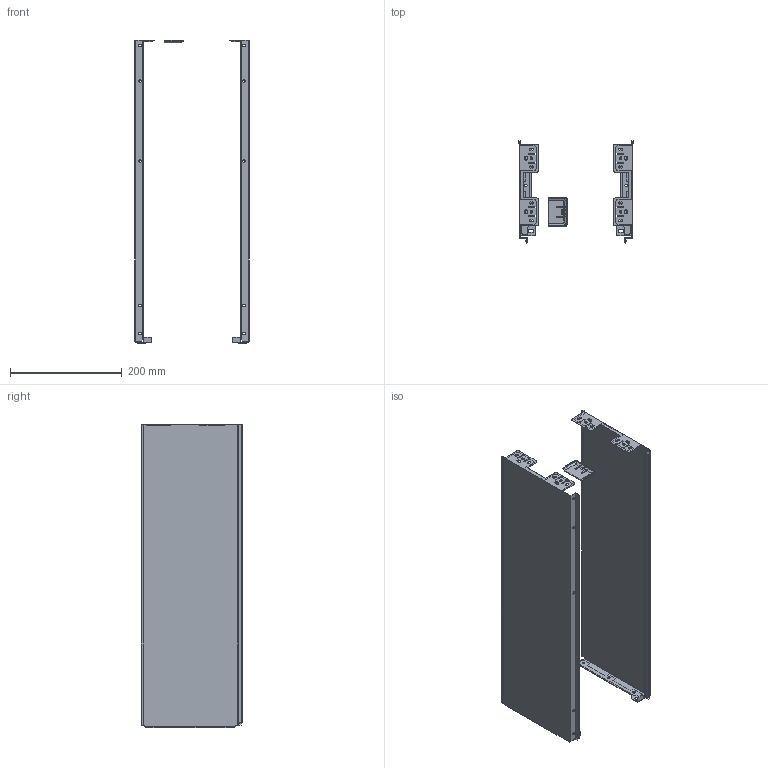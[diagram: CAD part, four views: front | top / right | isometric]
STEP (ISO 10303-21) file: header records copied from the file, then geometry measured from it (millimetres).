
FILE_DESCRIPTION (( 'STEP AP203' ), '1' );
FILE_NAME ('541753.STEP', '2026-04-29T12:47:30', ( '' ), ( '' ), 'SwSTEP 2.0', 'SolidWorks 2025', '' );
FILE_SCHEMA (( 'CONFIG_CONTROL_DESIGN' ));
Length unit declared in the file: millimetre
Products named in the file (4): 541753; StrongMini bočnice_L_gen_541753_L; StrongMini krytka šroubů; StrongMini bočnice_P_gen_541753_P
Assembly tree (3 placements, depth 2):
  541753
    StrongMini bočnice_L_gen_541753_L
    StrongMini bočnice_P_gen_541753_P
    StrongMini krytka šroubů
Bounding box: 205.4 x 182.07 x 542.3 mm (x, y, z)
Volume: 196295.1 mm3; surface area: 466852.4 mm2
Topology: 3 solids, 3 shells, 426 faces, 1221 edges, 798 vertices
Faces by surface type: plane 308, cylinder 84, cone 34
Full cylindrical faces by diameter (mm): 4.5 x20
Entity records: 14099 total; most frequent: CARTESIAN_POINT 2481, ORIENTED_EDGE 2358, DIRECTION 2209, EDGE_CURVE 1179, VECTOR 973, LINE 973, VERTEX_POINT 786, AXIS2_PLACEMENT_3D 618
